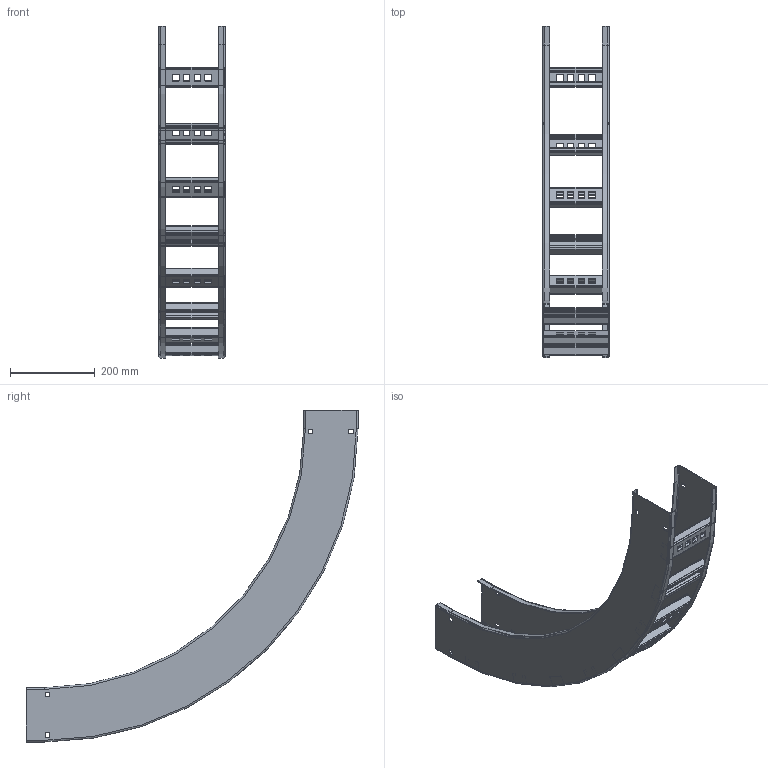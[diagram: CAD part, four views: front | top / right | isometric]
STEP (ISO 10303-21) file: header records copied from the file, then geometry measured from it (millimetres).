
FILE_DESCRIPTION((''),'2;1');
FILE_NAME('AUF506VVI9024_ASM','2010-01-28T',('erouzier'),(''),'PRO/ENGINEER BY PARAMETRIC TECHNOLOGY CORPORATION, 2008510','PRO/ENGINEER BY PARAMETRIC TECHNOLOGY CORPORATION, 2008510','');
FILE_SCHEMA(('CONFIG_CONTROL_DESIGN'));
Length unit declared in the file: inch
Products named in the file (3): CDS001417_5_90_24; CDS002159L6-P; AUF506VVI9024_ASM
Assembly tree (10 placements, depth 2):
  AUF506VVI9024_ASM
    CDS001417_5_90_24  x2
    CDS002159L6-P  x8
Bounding box: 156.51 x 782.12 x 782.12 mm (x, y, z)
Volume: 881071.9 mm3; surface area: 988017.3 mm2
Topology: 10 solids, 10 shells, 612 faces, 1712 edges, 1120 vertices
Faces by surface type: plane 364, cylinder 240, torus 8
Entity records: 3856 total; most frequent: DIRECTION 664, CARTESIAN_POINT 649, ORIENTED_EDGE 632, EDGE_CURVE 316, VECTOR 234, LINE 234, AXIS2_PLACEMENT_3D 215, VERTEX_POINT 200
